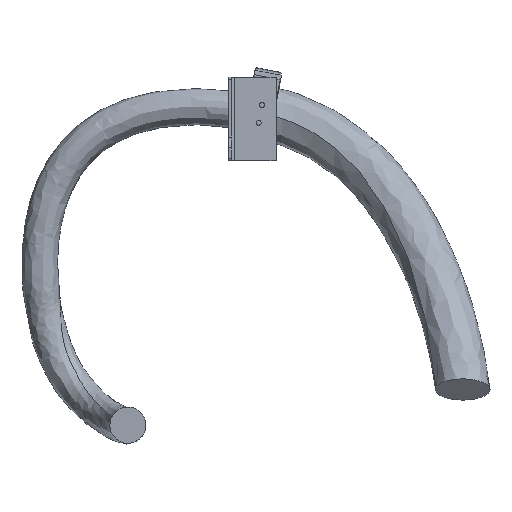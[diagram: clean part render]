
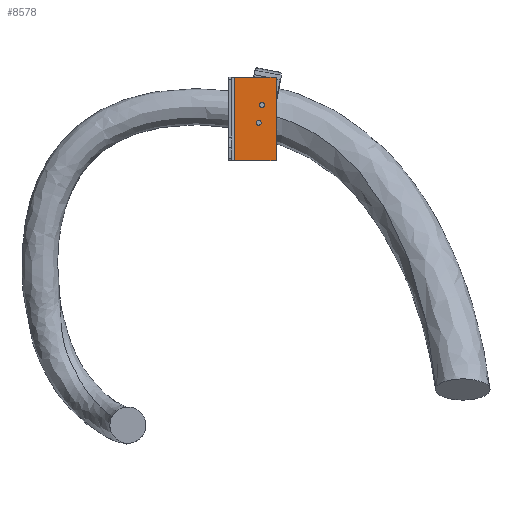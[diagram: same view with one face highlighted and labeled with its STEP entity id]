
A CAD part, left-side view. The second image highlights one B-rep face of the part: STEP entity #8578.
In plain terms, the highlighted planar face has unit normal (-1, 0, 0).
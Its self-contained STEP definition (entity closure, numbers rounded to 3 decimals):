
#41 = DIRECTION ( 'NONE',  ( 0., 1., 0. ) ) ;
#55 = CARTESIAN_POINT ( 'NONE',  ( 558., -173.5, 2407.992 ) ) ;
#141 = CARTESIAN_POINT ( 'NONE',  ( 558., -168., 2378.5 ) ) ;
#192 = DIRECTION ( 'NONE',  ( 0., 0., 1. ) ) ;
#604 = CIRCLE ( 'NONE', #8097, 4. ) ;
#664 = EDGE_LOOP ( 'NONE', ( #936, #12039 ) ) ;
#820 = DIRECTION ( 'NONE',  ( 0., 1., 0. ) ) ;
#873 = VERTEX_POINT ( 'NONE', #55 ) ;
#936 = ORIENTED_EDGE ( 'NONE', *, *, #10201, .T. ) ;
#973 = VECTOR ( 'NONE', #3167, 1000. ) ;
#1095 = CIRCLE ( 'NONE', #12262, 4. ) ;
#1444 = VERTEX_POINT ( 'NONE', #11753 ) ;
#1535 = CIRCLE ( 'NONE', #3659, 3. ) ;
#1560 = DIRECTION ( 'NONE',  ( 0., 1., 0. ) ) ;
#1599 = VECTOR ( 'NONE', #820, 1000. ) ;
#1846 = VERTEX_POINT ( 'NONE', #5187 ) ;
#1902 = CARTESIAN_POINT ( 'NONE',  ( 558., -202., 2454. ) ) ;
#2213 = VERTEX_POINT ( 'NONE', #11198 ) ;
#2464 = ORIENTED_EDGE ( 'NONE', *, *, #4108, .F. ) ;
#2490 = CIRCLE ( 'NONE', #8075, 4. ) ;
#2692 = LINE ( 'NONE', #3897, #1599 ) ;
#3040 = DIRECTION ( 'NONE',  ( 0., 0., 1. ) ) ;
#3167 = DIRECTION ( 'NONE',  ( 0., -1., 0. ) ) ;
#3486 = ORIENTED_EDGE ( 'NONE', *, *, #10466, .T. ) ;
#3523 = VERTEX_POINT ( 'NONE', #10158 ) ;
#3646 = VERTEX_POINT ( 'NONE', #141 ) ;
#3659 = AXIS2_PLACEMENT_3D ( 'NONE', #7973, #7099, #41 ) ;
#3746 = FACE_BOUND ( 'NONE', #664, .T. ) ;
#3759 = ORIENTED_EDGE ( 'NONE', *, *, #9030, .T. ) ;
#3897 = CARTESIAN_POINT ( 'NONE',  ( 558., -127., 2454. ) ) ;
#3929 = DIRECTION ( 'NONE',  ( 1., 0., 0. ) ) ;
#4108 = EDGE_CURVE ( 'NONE', #6648, #3523, #4215, .T. ) ;
#4178 = CARTESIAN_POINT ( 'NONE',  ( 558., -127., 2316. ) ) ;
#4215 = LINE ( 'NONE', #11424, #9388 ) ;
#4254 = DIRECTION ( 'NONE',  ( 1., 0., 0. ) ) ;
#4417 = DIRECTION ( 'NONE',  ( 0., 1., 0. ) ) ;
#4925 = DIRECTION ( 'NONE',  ( 0., 1., 0. ) ) ;
#5187 = CARTESIAN_POINT ( 'NONE',  ( 558., -202., 2319. ) ) ;
#6050 = VERTEX_POINT ( 'NONE', #9894 ) ;
#6648 = VERTEX_POINT ( 'NONE', #12400 ) ;
#6666 = FACE_BOUND ( 'NONE', #6832, .T. ) ;
#6692 = DIRECTION ( 'NONE',  ( -1., 0., 0. ) ) ;
#6694 = EDGE_CURVE ( 'NONE', #6648, #6853, #11318, .T. ) ;
#6788 = CARTESIAN_POINT ( 'NONE',  ( 558., -127., 2454. ) ) ;
#6791 = AXIS2_PLACEMENT_3D ( 'NONE', #8225, #4254, #8157 ) ;
#6832 = EDGE_LOOP ( 'NONE', ( #12572, #3486 ) ) ;
#6853 = VERTEX_POINT ( 'NONE', #9015 ) ;
#7083 = ORIENTED_EDGE ( 'NONE', *, *, #11910, .T. ) ;
#7099 = DIRECTION ( 'NONE',  ( -1., 0., 0. ) ) ;
#7174 = EDGE_LOOP ( 'NONE', ( #7083, #8285, #3759, #2464, #10648, #11042 ) ) ;
#7700 = DIRECTION ( 'NONE',  ( 0., 1., 0. ) ) ;
#7862 = DIRECTION ( 'NONE',  ( 1., 0., 0. ) ) ;
#7973 = CARTESIAN_POINT ( 'NONE',  ( 558., -199., 2319. ) ) ;
#8013 = DIRECTION ( 'NONE',  ( 1., 0., 0. ) ) ;
#8075 = AXIS2_PLACEMENT_3D ( 'NONE', #13173, #3929, #4417 ) ;
#8097 = AXIS2_PLACEMENT_3D ( 'NONE', #11051, #8013, #4925 ) ;
#8157 = DIRECTION ( 'NONE',  ( 0., 1., 0. ) ) ;
#8225 = CARTESIAN_POINT ( 'NONE',  ( 558., -172., 2378.5 ) ) ;
#8285 = ORIENTED_EDGE ( 'NONE', *, *, #12146, .T. ) ;
#8578 = ADVANCED_FACE ( 'NONE', ( #3746, #6666, #8758 ), #9828, .F. ) ;
#8758 = FACE_OUTER_BOUND ( 'NONE', #7174, .T. ) ;
#8791 = VECTOR ( 'NONE', #3040, 1000. ) ;
#8801 = DIRECTION ( 'NONE',  ( 0., 1., 0. ) ) ;
#8822 = CARTESIAN_POINT ( 'NONE',  ( 558., -176., 2378.5 ) ) ;
#9015 = CARTESIAN_POINT ( 'NONE',  ( 558., -199., 2316. ) ) ;
#9030 = EDGE_CURVE ( 'NONE', #1444, #3523, #2692, .T. ) ;
#9153 = CIRCLE ( 'NONE', #6791, 4. ) ;
#9388 = VECTOR ( 'NONE', #192, 1000. ) ;
#9828 = PLANE ( 'NONE',  #13231 ) ;
#9894 = CARTESIAN_POINT ( 'NONE',  ( 558., -202., 2451. ) ) ;
#10158 = CARTESIAN_POINT ( 'NONE',  ( 558., -132., 2454. ) ) ;
#10184 = LINE ( 'NONE', #1902, #8791 ) ;
#10201 = EDGE_CURVE ( 'NONE', #873, #2213, #2490, .T. ) ;
#10466 = EDGE_CURVE ( 'NONE', #12463, #3646, #9153, .T. ) ;
#10648 = ORIENTED_EDGE ( 'NONE', *, *, #6694, .T. ) ;
#10861 = CARTESIAN_POINT ( 'NONE',  ( 558., -199., 2451. ) ) ;
#10882 = EDGE_CURVE ( 'NONE', #3646, #12463, #1095, .T. ) ;
#11042 = ORIENTED_EDGE ( 'NONE', *, *, #11192, .T. ) ;
#11051 = CARTESIAN_POINT ( 'NONE',  ( 558., -177.5, 2407.992 ) ) ;
#11192 = EDGE_CURVE ( 'NONE', #6853, #1846, #1535, .T. ) ;
#11198 = CARTESIAN_POINT ( 'NONE',  ( 558., -181.5, 2407.992 ) ) ;
#11318 = LINE ( 'NONE', #4178, #973 ) ;
#11424 = CARTESIAN_POINT ( 'NONE',  ( 558., -132., 2316. ) ) ;
#11753 = CARTESIAN_POINT ( 'NONE',  ( 558., -199., 2454. ) ) ;
#11896 = DIRECTION ( 'NONE',  ( 1., 0., 0. ) ) ;
#11910 = EDGE_CURVE ( 'NONE', #1846, #6050, #10184, .T. ) ;
#11956 = CARTESIAN_POINT ( 'NONE',  ( 558., -172., 2378.5 ) ) ;
#12039 = ORIENTED_EDGE ( 'NONE', *, *, #12199, .T. ) ;
#12146 = EDGE_CURVE ( 'NONE', #6050, #1444, #12194, .T. ) ;
#12194 = CIRCLE ( 'NONE', #12219, 3. ) ;
#12199 = EDGE_CURVE ( 'NONE', #2213, #873, #604, .T. ) ;
#12219 = AXIS2_PLACEMENT_3D ( 'NONE', #10861, #6692, #7700 ) ;
#12262 = AXIS2_PLACEMENT_3D ( 'NONE', #11956, #11896, #8801 ) ;
#12400 = CARTESIAN_POINT ( 'NONE',  ( 558., -132., 2316. ) ) ;
#12463 = VERTEX_POINT ( 'NONE', #8822 ) ;
#12572 = ORIENTED_EDGE ( 'NONE', *, *, #10882, .T. ) ;
#13173 = CARTESIAN_POINT ( 'NONE',  ( 558., -177.5, 2407.992 ) ) ;
#13231 = AXIS2_PLACEMENT_3D ( 'NONE', #6788, #7862, #1560 ) ;
